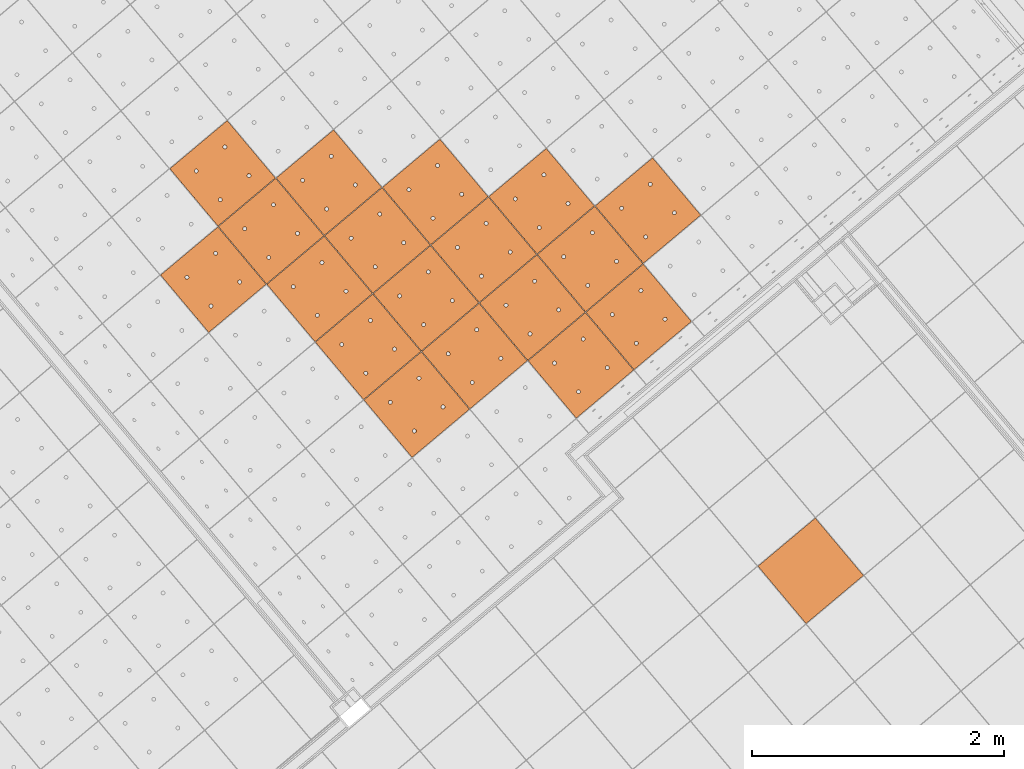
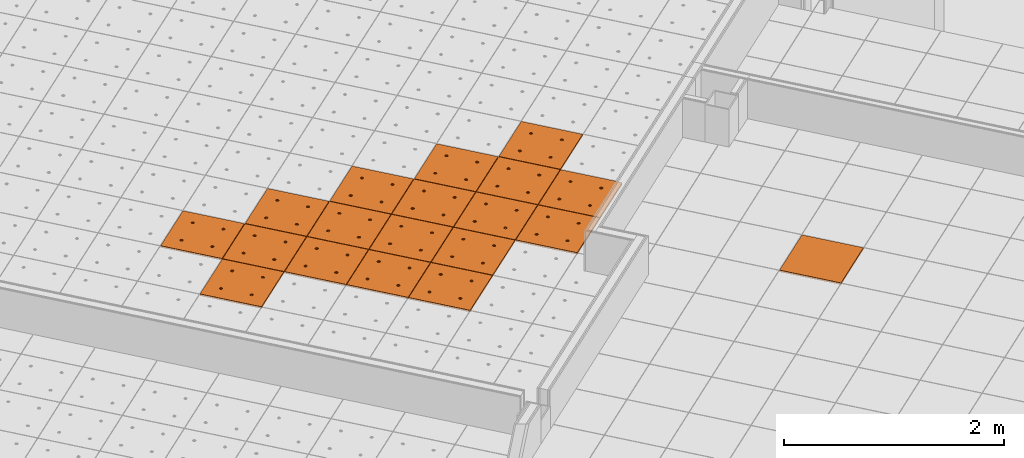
# One storey, part 167 of 338: 19 proxies, 2 elements without a shape of their own.
"""IFC2X3 building model written with IfcOpenShell, lengths in millimetres."""

from ifc_helpers import new_model, entity, si_unit, converted_unit, derived_unit, money_unit, direction, frame, origin_with_axes, place, context, subcontext, project, spatial, faceted_brep, source, transform, mapped, material, type_object, type_shapes, element, aggregate, save


model = new_model("IFC2X3")

# Units and contexts
model_context = context("Model", 3, precision=0.01, world=origin_with_axes(), true_north=direction((0.0, 1.0)))
plan_context = context("Plan", 3, precision=0.01, world=origin_with_axes(), true_north=direction((0.0, 1.0)))
body_context = subcontext(model_context, "Body", "Model", "MODEL_VIEW")
ifc_project = project(units=[si_unit("LENGTHUNIT", "METRE", prefix="MILLI"), si_unit("AREAUNIT", "SQUARE_METRE"), si_unit("VOLUMEUNIT", "CUBIC_METRE"), converted_unit("PLANEANGLEUNIT", "DEGREE", entity("IfcPlaneAngleMeasure", 0.0174532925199), si_unit("PLANEANGLEUNIT", "RADIAN"), dimensions=[0, 0, 0, 0, 0, 0, 0]), money_unit("EUR"), converted_unit("TIMEUNIT", "Year", entity("IfcTimeMeasure", 31556926.0), si_unit("TIMEUNIT", "SECOND"), dimensions=[0, 0, 1, 0, 0, 0, 0]), si_unit("MASSUNIT", "GRAM", prefix="KILO"), si_unit("THERMODYNAMICTEMPERATUREUNIT", "DEGREE_CELSIUS"), si_unit("LUMINOUSINTENSITYUNIT", "LUMEN"), si_unit("ENERGYUNIT", "JOULE", prefix="MEGA"), derived_unit("THERMALCONDUCTANCEUNIT", [(si_unit("POWERUNIT", "WATT"), 1), (si_unit("LENGTHUNIT", "METRE"), -1), (si_unit("THERMODYNAMICTEMPERATUREUNIT", "KELVIN"), -1)]), derived_unit("SPECIFICHEATCAPACITYUNIT", [(si_unit("ENERGYUNIT", "JOULE"), 1), (si_unit("MASSUNIT", "GRAM", prefix="KILO"), -1), (si_unit("THERMODYNAMICTEMPERATUREUNIT", "KELVIN"), -1)]), derived_unit("MASSDENSITYUNIT", [(si_unit("MASSUNIT", "GRAM", prefix="KILO"), 1), (si_unit("VOLUMEUNIT", "CUBIC_METRE"), -1)])], contexts=[model_context, plan_context])

# Site, building, storey
site_placement = place(None, origin_with_axes())
site = spatial("IfcSite", under=ifc_project, at=site_placement, Name="Fortuinstraat Woensdrecht", CompositionType="ELEMENT")
building_placement = place(site_placement, origin_with_axes())
building = spatial("IfcBuilding", under=site, at=building_placement, Name="IKC Fortuna", CompositionType="ELEMENT")
storey_placement = place(building_placement, origin_with_axes())
storey = spatial("IfcBuildingStorey", under=building, at=storey_placement, Name="00 begane grond", CompositionType="ELEMENT", Elevation=0.0)

# Covering, proxy
covering_type = type_object("IfcCoveringType", Name="Curtain Wall Type", PredefinedType="CEILING")
covering_1_placement = place(storey_placement, frame((17937.1227498, -4186.27868692, 4660.0), z_axis=(0.0, 0.0, 1.0), x_axis=(1.0, 0.0, 0.0)))
covering_1 = element("IfcCovering", 1, at=covering_1_placement, inside=storey, type_object=covering_type, Name="45_Plafondafwerking_P02", PredefinedType="CEILING")
ifc_material = material(Name="Gipsplaat")
building_element_proxy_type_1 = type_object("IfcBuildingElementProxyType", Name="Distinct Panel 600 x 600 x 20", PredefinedType="NOTDEFINED")
shared_shape_1 = source(origin_with_axes(), body_context, "Body", "Brep", [
    faceted_brep([(2.49999999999, 2.5, -10.0), (597.5, 2.49999999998, -10.0), (597.5, 2.49999999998, 10.0), (2.49999999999, 2.5, 10.0), (2.50000000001, 597.5, -10.0), (597.5, 597.5, -10.0), (597.5, 597.5, 10.0), (2.50000000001, 597.5, 10.0)], [[[0, 1, 2, 3]], [[0, 4, 5, 1]], [[1, 5, 6, 2]], [[3, 2, 6, 7]], [[4, 0, 3, 7]], [[5, 4, 7, 6]]]),
])
type_shapes(building_element_proxy_type_1, [shared_shape_1])
proxy_1_placement = place(covering_1_placement, frame((-3766.64921443, 4488.91541909, 0.0), z_axis=(0.0, 0.0, 1.0), x_axis=(1.0, 0.0, 0.0)))
proxy_1 = element("IfcBuildingElementProxy", 2, at=proxy_1_placement, type_object=building_element_proxy_type_1, material=ifc_material, Name="__Panel-D", context=body_context, shape_type="MappedRepresentation", body=[
    mapped(shared_shape_1, transform((36.9769427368, 422.649625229, 0.0), x_axis=(-0.766044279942, -0.642787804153, 0.0), y_axis=(0.642787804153, -0.766044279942, 0.0), z_axis=(0.0, 0.0, 1.0))),
])
aggregate(covering_1, [proxy_1])

# Covering, proxies
covering_2_placement = place(storey_placement, frame((15863.124366, 4456.31398675, 4619.99995334), z_axis=(0.0, 0.0, 1.0), x_axis=(1.0, 0.0, 0.0)))
covering_2 = element("IfcCovering", 3, at=covering_2_placement, inside=storey, type_object=covering_type, Name="45_Plafondafwerking_P01", PredefinedType="CEILING")
building_element_proxy_type_2 = type_object("IfcBuildingElementProxyType", Name="Main Panel 600 x 600 x 20", PredefinedType="NOTDEFINED")
shared_shape_2 = source(origin_with_axes(), body_context, "Body", "Brep", [
    faceted_brep([(2.50000262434, 2.50000269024, -10.0), (299.999999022, 2.50000269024, -10.0), (299.999999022, 2.50000269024, 10.0), (2.50000262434, 2.50000269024, 10.0), (2.50000262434, 300.000003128, -10.0), (2.50000262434, 597.500003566, -10.0), (299.999999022, 597.500003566, -10.0), (597.499995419, 597.500003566, -10.0), (597.499995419, 300.000003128, -10.0), (597.499995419, 2.50000269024, -10.0), (166.250000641, 450.062333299, -10.0), (165.794233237, 452.647118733, -10.0), (164.896546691, 455.113492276, -10.0), (163.584216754, 457.386514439, -10.0), (161.897117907, 459.397120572, -10.0), (159.886511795, 461.084219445, -10.0), (157.613489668, 462.396549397, -10.0), (155.147116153, 463.294235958, -10.0), (152.56233076, 463.750003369, -10.0), (149.937670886, 463.750003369, -10.0), (147.352885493, 463.294235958, -10.0), (144.886511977, 462.396549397, -10.0), (142.61348985, 461.084219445, -10.0), (140.602883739, 459.397120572, -10.0), (138.915784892, 457.386514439, -10.0), (137.603454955, 455.113492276, -10.0), (136.705768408, 452.647118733, -10.0), (136.250001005, 450.062333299, -10.0), (136.250001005, 448.750003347, -10.0), (136.250001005, 447.437673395, -10.0), (136.705768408, 444.852887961, -10.0), (137.603454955, 442.386514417, -10.0), (138.915784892, 440.113492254, -10.0), (140.602883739, 438.102886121, -10.0), (142.61348985, 436.415787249, -10.0), (144.886511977, 435.103457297, -10.0), (147.352885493, 434.205770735, -10.0), (149.937670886, 433.750003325, -10.0), (152.56233076, 433.750003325, -10.0), (155.147116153, 434.205770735, -10.0), (157.613489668, 435.103457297, -10.0), (159.886511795, 436.415787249, -10.0), (161.897117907, 438.102886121, -10.0), (163.584216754, 440.113492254, -10.0), (164.896546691, 442.386514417, -10.0), (165.794233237, 444.852887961, -10.0), (166.250000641, 447.437673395, -10.0), (463.749997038, 450.062333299, -10.0), (463.294229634, 452.647118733, -10.0), (462.396543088, 455.113492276, -10.0), (461.084213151, 457.386514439, -10.0), (459.397114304, 459.397120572, -10.0), (457.386508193, 461.084219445, -10.0), (455.113486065, 462.396549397, -10.0), (452.64711255, 463.294235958, -10.0), (450.062327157, 463.750003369, -10.0), (447.437667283, 463.750003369, -10.0), (444.85288189, 463.294235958, -10.0), (442.386508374, 462.396549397, -10.0), (440.113486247, 461.084219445, -10.0), (438.102880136, 459.397120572, -10.0), (436.415781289, 457.386514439, -10.0), (435.103451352, 455.113492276, -10.0), (434.205764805, 452.647118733, -10.0), (433.749997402, 450.062333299, -10.0), (433.749997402, 448.750003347, -10.0), (433.749997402, 447.437673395, -10.0), (434.205764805, 444.852887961, -10.0), (435.103451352, 442.386514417, -10.0), (436.415781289, 440.113492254, -10.0), (438.102880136, 438.102886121, -10.0), (440.113486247, 436.415787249, -10.0), (442.386508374, 435.103457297, -10.0), (444.85288189, 434.205770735, -10.0), (447.437667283, 433.750003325, -10.0), (450.062327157, 433.750003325, -10.0), (452.64711255, 434.205770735, -10.0), (455.113486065, 435.103457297, -10.0), (457.386508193, 436.415787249, -10.0), (459.397114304, 438.102886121, -10.0), (461.084213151, 440.113492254, -10.0), (462.396543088, 442.386514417, -10.0), (463.294229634, 444.852887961, -10.0), (463.749997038, 447.437673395, -10.0), (463.749997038, 152.562332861, -10.0), (463.294229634, 155.147118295, -10.0), (462.396543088, 157.613491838, -10.0), (461.084213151, 159.886514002, -10.0), (459.397114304, 161.897120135, -10.0), (457.386508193, 163.584219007, -10.0), (455.113486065, 164.896548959, -10.0), (452.64711255, 165.79423552, -10.0), (450.062327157, 166.250002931, -10.0), (447.437667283, 166.250002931, -10.0), (444.85288189, 165.79423552, -10.0), (442.386508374, 164.896548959, -10.0), (440.113486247, 163.584219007, -10.0), (438.102880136, 161.897120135, -10.0), (436.415781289, 159.886514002, -10.0), (435.103451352, 157.613491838, -10.0), (434.205764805, 155.147118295, -10.0), (433.749997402, 152.562332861, -10.0), (433.749997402, 151.250002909, -10.0), (433.749997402, 149.937672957, -10.0), (434.205764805, 147.352887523, -10.0), (435.103451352, 144.88651398, -10.0), (436.415781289, 142.613491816, -10.0), (438.102880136, 140.602885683, -10.0), (440.113486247, 138.915786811, -10.0), (442.386508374, 137.603456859, -10.0), (444.85288189, 136.705770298, -10.0), (447.437667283, 136.250002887, -10.0), (450.062327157, 136.250002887, -10.0), (452.64711255, 136.705770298, -10.0), (455.113486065, 137.603456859, -10.0), (457.386508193, 138.915786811, -10.0), (459.397114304, 140.602885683, -10.0), (461.084213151, 142.613491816, -10.0), (462.396543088, 144.88651398, -10.0), (463.294229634, 147.352887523, -10.0), (463.749997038, 149.937672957, -10.0), (166.250000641, 152.562332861, -10.0), (165.794233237, 155.147118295, -10.0), (164.896546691, 157.613491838, -10.0), (163.584216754, 159.886514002, -10.0), (161.897117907, 161.897120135, -10.0), (159.886511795, 163.584219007, -10.0), (157.613489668, 164.896548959, -10.0), (155.147116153, 165.79423552, -10.0), (152.56233076, 166.250002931, -10.0), (149.937670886, 166.250002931, -10.0), (147.352885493, 165.79423552, -10.0), (144.886511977, 164.896548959, -10.0), (142.61348985, 163.584219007, -10.0), (140.602883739, 161.897120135, -10.0), (138.915784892, 159.886514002, -10.0), (137.603454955, 157.613491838, -10.0), (136.705768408, 155.147118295, -10.0), (136.250001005, 152.562332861, -10.0), (136.250001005, 151.250002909, -10.0), (136.250001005, 149.937672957, -10.0), (136.705768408, 147.352887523, -10.0), (137.603454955, 144.88651398, -10.0), (138.915784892, 142.613491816, -10.0), (140.602883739, 140.602885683, -10.0), (142.61348985, 138.915786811, -10.0), (144.886511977, 137.603456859, -10.0), (147.352885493, 136.705770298, -10.0), (149.937670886, 136.250002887, -10.0), (152.56233076, 136.250002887, -10.0), (155.147116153, 136.705770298, -10.0), (157.613489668, 137.603456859, -10.0), (159.886511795, 138.915786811, -10.0), (161.897117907, 140.602885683, -10.0), (163.584216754, 142.613491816, -10.0), (164.896546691, 144.88651398, -10.0), (165.794233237, 147.352887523, -10.0), (166.250000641, 149.937672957, -10.0), (597.499995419, 2.50000269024, 10.0), (597.499995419, 300.000003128, 10.0), (597.499995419, 597.500003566, 10.0), (299.999999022, 597.500003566, 10.0), (2.50000262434, 597.500003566, 10.0), (2.50000262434, 300.000003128, 10.0), (166.250000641, 450.062333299, 10.0), (166.250000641, 447.437673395, 10.0), (165.794233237, 444.852887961, 10.0), (164.896546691, 442.386514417, 10.0), (163.584216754, 440.113492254, 10.0), (161.897117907, 438.102886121, 10.0), (159.886511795, 436.415787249, 10.0), (157.613489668, 435.103457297, 10.0), (155.147116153, 434.205770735, 10.0), (152.56233076, 433.750003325, 10.0), (149.937670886, 433.750003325, 10.0), (147.352885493, 434.205770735, 10.0), (144.886511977, 435.103457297, 10.0), (142.61348985, 436.415787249, 10.0), (140.602883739, 438.102886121, 10.0), (138.915784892, 440.113492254, 10.0), (137.603454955, 442.386514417, 10.0), (136.705768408, 444.852887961, 10.0), (136.250001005, 447.437673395, 10.0), (136.250001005, 448.750003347, 10.0), (136.250001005, 450.062333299, 10.0), (136.705768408, 452.647118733, 10.0), (137.603454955, 455.113492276, 10.0), (138.915784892, 457.386514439, 10.0), (140.602883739, 459.397120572, 10.0), (142.61348985, 461.084219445, 10.0), (144.886511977, 462.396549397, 10.0), (147.352885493, 463.294235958, 10.0), (149.937670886, 463.750003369, 10.0), (152.56233076, 463.750003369, 10.0), (155.147116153, 463.294235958, 10.0), (157.613489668, 462.396549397, 10.0), (159.886511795, 461.084219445, 10.0), (161.897117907, 459.397120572, 10.0), (163.584216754, 457.386514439, 10.0), (164.896546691, 455.113492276, 10.0), (165.794233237, 452.647118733, 10.0), (463.749997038, 450.062333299, 10.0), (463.749997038, 447.437673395, 10.0), (463.294229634, 444.852887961, 10.0), (462.396543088, 442.386514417, 10.0), (461.084213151, 440.113492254, 10.0), (459.397114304, 438.102886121, 10.0), (457.386508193, 436.415787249, 10.0), (455.113486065, 435.103457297, 10.0), (452.64711255, 434.205770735, 10.0), (450.062327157, 433.750003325, 10.0), (447.437667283, 433.750003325, 10.0), (444.85288189, 434.205770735, 10.0), (442.386508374, 435.103457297, 10.0), (440.113486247, 436.415787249, 10.0), (438.102880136, 438.102886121, 10.0), (436.415781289, 440.113492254, 10.0), (435.103451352, 442.386514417, 10.0), (434.205764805, 444.852887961, 10.0), (433.749997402, 447.437673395, 10.0), (433.749997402, 448.750003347, 10.0), (433.749997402, 450.062333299, 10.0), (434.205764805, 452.647118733, 10.0), (435.103451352, 455.113492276, 10.0), (436.415781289, 457.386514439, 10.0), (438.102880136, 459.397120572, 10.0), (440.113486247, 461.084219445, 10.0), (442.386508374, 462.396549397, 10.0), (444.85288189, 463.294235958, 10.0), (447.437667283, 463.750003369, 10.0), (450.062327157, 463.750003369, 10.0), (452.64711255, 463.294235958, 10.0), (455.113486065, 462.396549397, 10.0), (457.386508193, 461.084219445, 10.0), (459.397114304, 459.397120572, 10.0), (461.084213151, 457.386514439, 10.0), (462.396543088, 455.113492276, 10.0), (463.294229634, 452.647118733, 10.0), (463.749997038, 152.562332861, 10.0), (463.749997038, 149.937672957, 10.0), (463.294229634, 147.352887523, 10.0), (462.396543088, 144.88651398, 10.0), (461.084213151, 142.613491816, 10.0), (459.397114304, 140.602885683, 10.0), (457.386508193, 138.915786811, 10.0), (455.113486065, 137.603456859, 10.0), (452.64711255, 136.705770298, 10.0), (450.062327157, 136.250002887, 10.0), (447.437667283, 136.250002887, 10.0), (444.85288189, 136.705770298, 10.0), (442.386508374, 137.603456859, 10.0), (440.113486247, 138.915786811, 10.0), (438.102880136, 140.602885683, 10.0), (436.415781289, 142.613491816, 10.0), (435.103451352, 144.88651398, 10.0), (434.205764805, 147.352887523, 10.0), (433.749997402, 149.937672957, 10.0), (433.749997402, 151.250002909, 10.0), (433.749997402, 152.562332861, 10.0), (434.205764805, 155.147118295, 10.0), (435.103451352, 157.613491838, 10.0), (436.415781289, 159.886514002, 10.0), (438.102880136, 161.897120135, 10.0), (440.113486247, 163.584219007, 10.0), (442.386508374, 164.896548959, 10.0), (444.85288189, 165.79423552, 10.0), (447.437667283, 166.250002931, 10.0), (450.062327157, 166.250002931, 10.0), (452.64711255, 165.79423552, 10.0), (455.113486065, 164.896548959, 10.0), (457.386508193, 163.584219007, 10.0), (459.397114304, 161.897120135, 10.0), (461.084213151, 159.886514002, 10.0), (462.396543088, 157.613491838, 10.0), (463.294229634, 155.147118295, 10.0), (166.250000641, 152.562332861, 10.0), (166.250000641, 149.937672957, 10.0), (165.794233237, 147.352887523, 10.0), (164.896546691, 144.88651398, 10.0), (163.584216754, 142.613491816, 10.0), (161.897117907, 140.602885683, 10.0), (159.886511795, 138.915786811, 10.0), (157.613489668, 137.603456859, 10.0), (155.147116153, 136.705770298, 10.0), (152.56233076, 136.250002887, 10.0), (149.937670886, 136.250002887, 10.0), (147.352885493, 136.705770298, 10.0), (144.886511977, 137.603456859, 10.0), (142.61348985, 138.915786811, 10.0), (140.602883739, 140.602885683, 10.0), (138.915784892, 142.613491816, 10.0), (137.603454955, 144.88651398, 10.0), (136.705768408, 147.352887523, 10.0), (136.250001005, 149.937672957, 10.0), (136.250001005, 151.250002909, 10.0), (136.250001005, 152.562332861, 10.0), (136.705768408, 155.147118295, 10.0), (137.603454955, 157.613491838, 10.0), (138.915784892, 159.886514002, 10.0), (140.602883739, 161.897120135, 10.0), (142.61348985, 163.584219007, 10.0), (144.886511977, 164.896548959, 10.0), (147.352885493, 165.79423552, 10.0), (149.937670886, 166.250002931, 10.0), (152.56233076, 166.250002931, 10.0), (155.147116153, 165.79423552, 10.0), (157.613489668, 164.896548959, 10.0), (159.886511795, 163.584219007, 10.0), (161.897117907, 161.897120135, 10.0), (163.584216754, 159.886514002, 10.0), (164.896546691, 157.613491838, 10.0), (165.794233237, 155.147118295, 10.0)], [[[0, 1, 2, 3]], [[0, 4, 5, 6, 7, 8, 9, 1], [10, 11, 12, 13, 14, 15, 16, 17, 18, 19, 20, 21, 22, 23, 24, 25, 26, 27, 28, 29, 30, 31, 32, 33, 34, 35, 36, 37, 38, 39, 40, 41, 42, 43, 44, 45, 46], [47, 48, 49, 50, 51, 52, 53, 54, 55, 56, 57, 58, 59, 60, 61, 62, 63, 64, 65, 66, 67, 68, 69, 70, 71, 72, 73, 74, 75, 76, 77, 78, 79, 80, 81, 82, 83], [84, 85, 86, 87, 88, 89, 90, 91, 92, 93, 94, 95, 96, 97, 98, 99, 100, 101, 102, 103, 104, 105, 106, 107, 108, 109, 110, 111, 112, 113, 114, 115, 116, 117, 118, 119, 120], [121, 122, 123, 124, 125, 126, 127, 128, 129, 130, 131, 132, 133, 134, 135, 136, 137, 138, 139, 140, 141, 142, 143, 144, 145, 146, 147, 148, 149, 150, 151, 152, 153, 154, 155, 156, 157]], [[1, 9, 158, 2]], [[3, 2, 158, 159, 160, 161, 162, 163], [164, 165, 166, 167, 168, 169, 170, 171, 172, 173, 174, 175, 176, 177, 178, 179, 180, 181, 182, 183, 184, 185, 186, 187, 188, 189, 190, 191, 192, 193, 194, 195, 196, 197, 198, 199, 200], [201, 202, 203, 204, 205, 206, 207, 208, 209, 210, 211, 212, 213, 214, 215, 216, 217, 218, 219, 220, 221, 222, 223, 224, 225, 226, 227, 228, 229, 230, 231, 232, 233, 234, 235, 236, 237], [238, 239, 240, 241, 242, 243, 244, 245, 246, 247, 248, 249, 250, 251, 252, 253, 254, 255, 256, 257, 258, 259, 260, 261, 262, 263, 264, 265, 266, 267, 268, 269, 270, 271, 272, 273, 274], [275, 276, 277, 278, 279, 280, 281, 282, 283, 284, 285, 286, 287, 288, 289, 290, 291, 292, 293, 294, 295, 296, 297, 298, 299, 300, 301, 302, 303, 304, 305, 306, 307, 308, 309, 310, 311]], [[4, 0, 3, 163]], [[5, 4, 163, 162]], [[6, 5, 162, 161]], [[7, 6, 161, 160]], [[8, 7, 160, 159]], [[9, 8, 159, 158]], [[11, 10, 164, 200]], [[12, 11, 200, 199]], [[13, 12, 199, 198]], [[14, 13, 198, 197]], [[15, 14, 197, 196]], [[16, 15, 196, 195]], [[17, 16, 195, 194]], [[18, 17, 194, 193]], [[19, 18, 193, 192]], [[20, 19, 192, 191]], [[21, 20, 191, 190]], [[22, 21, 190, 189]], [[23, 22, 189, 188]], [[24, 23, 188, 187]], [[25, 24, 187, 186]], [[26, 25, 186, 185]], [[27, 26, 185, 184]], [[28, 27, 184, 183]], [[29, 28, 183, 182]], [[30, 29, 182, 181]], [[31, 30, 181, 180]], [[32, 31, 180, 179]], [[33, 32, 179, 178]], [[34, 33, 178, 177]], [[35, 34, 177, 176]], [[36, 35, 176, 175]], [[37, 36, 175, 174]], [[38, 37, 174, 173]], [[39, 38, 173, 172]], [[40, 39, 172, 171]], [[41, 40, 171, 170]], [[42, 41, 170, 169]], [[43, 42, 169, 168]], [[44, 43, 168, 167]], [[45, 44, 167, 166]], [[46, 45, 166, 165]], [[10, 46, 165, 164]], [[48, 47, 201, 237]], [[49, 48, 237, 236]], [[50, 49, 236, 235]], [[51, 50, 235, 234]], [[52, 51, 234, 233]], [[53, 52, 233, 232]], [[54, 53, 232, 231]], [[55, 54, 231, 230]], [[56, 55, 230, 229]], [[57, 56, 229, 228]], [[58, 57, 228, 227]], [[59, 58, 227, 226]], [[60, 59, 226, 225]], [[61, 60, 225, 224]], [[62, 61, 224, 223]], [[63, 62, 223, 222]], [[64, 63, 222, 221]], [[65, 64, 221, 220]], [[66, 65, 220, 219]], [[67, 66, 219, 218]], [[68, 67, 218, 217]], [[69, 68, 217, 216]], [[70, 69, 216, 215]], [[71, 70, 215, 214]], [[72, 71, 214, 213]], [[73, 72, 213, 212]], [[74, 73, 212, 211]], [[75, 74, 211, 210]], [[76, 75, 210, 209]], [[77, 76, 209, 208]], [[78, 77, 208, 207]], [[79, 78, 207, 206]], [[80, 79, 206, 205]], [[81, 80, 205, 204]], [[82, 81, 204, 203]], [[83, 82, 203, 202]], [[47, 83, 202, 201]], [[85, 84, 238, 274]], [[86, 85, 274, 273]], [[87, 86, 273, 272]], [[88, 87, 272, 271]], [[89, 88, 271, 270]], [[90, 89, 270, 269]], [[91, 90, 269, 268]], [[92, 91, 268, 267]], [[93, 92, 267, 266]], [[94, 93, 266, 265]], [[95, 94, 265, 264]], [[96, 95, 264, 263]], [[97, 96, 263, 262]], [[98, 97, 262, 261]], [[99, 98, 261, 260]], [[100, 99, 260, 259]], [[101, 100, 259, 258]], [[102, 101, 258, 257]], [[103, 102, 257, 256]], [[104, 103, 256, 255]], [[105, 104, 255, 254]], [[106, 105, 254, 253]], [[107, 106, 253, 252]], [[108, 107, 252, 251]], [[109, 108, 251, 250]], [[110, 109, 250, 249]], [[111, 110, 249, 248]], [[112, 111, 248, 247]], [[113, 112, 247, 246]], [[114, 113, 246, 245]], [[115, 114, 245, 244]], [[116, 115, 244, 243]], [[117, 116, 243, 242]], [[118, 117, 242, 241]], [[119, 118, 241, 240]], [[120, 119, 240, 239]], [[84, 120, 239, 238]], [[122, 121, 275, 311]], [[123, 122, 311, 310]], [[124, 123, 310, 309]], [[125, 124, 309, 308]], [[126, 125, 308, 307]], [[127, 126, 307, 306]], [[128, 127, 306, 305]], [[129, 128, 305, 304]], [[130, 129, 304, 303]], [[131, 130, 303, 302]], [[132, 131, 302, 301]], [[133, 132, 301, 300]], [[134, 133, 300, 299]], [[135, 134, 299, 298]], [[136, 135, 298, 297]], [[137, 136, 297, 296]], [[138, 137, 296, 295]], [[139, 138, 295, 294]], [[140, 139, 294, 293]], [[141, 140, 293, 292]], [[142, 141, 292, 291]], [[143, 142, 291, 290]], [[144, 143, 290, 289]], [[145, 144, 289, 288]], [[146, 145, 288, 287]], [[147, 146, 287, 286]], [[148, 147, 286, 285]], [[149, 148, 285, 284]], [[150, 149, 284, 283]], [[151, 150, 283, 282]], [[152, 151, 282, 281]], [[153, 152, 281, 280]], [[154, 153, 280, 279]], [[155, 154, 279, 278]], [[156, 155, 278, 277]], [[157, 156, 277, 276]], [[121, 157, 276, 275]]]),
])
type_shapes(building_element_proxy_type_2, [shared_shape_2])
proxy_2_placement = place(covering_2_placement, frame((-6367.28911813, -994.094617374, 29.7317792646), z_axis=(0.0, 0.0, 1.0), x_axis=(0.642787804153, -0.766044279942, 0.0)))
proxy_2 = element("IfcBuildingElementProxy", 4, at=proxy_2_placement, type_object=building_element_proxy_type_2, material=ifc_material, Name="__600x005 Rockfon Krios", context=body_context, shape_type="MappedRepresentation", body=[
    mapped(shared_shape_2, transform((-300.0, 299.995617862, -1.62150043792), x_axis=(0.0, -0.999985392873, 0.00540500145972), y_axis=(1.0, 0.0, 0.0), z_axis=(0.0, 0.00540500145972, 0.999985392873))),
])
proxy_3_placement = place(covering_2_placement, frame((-5521.9965815, -1068.05413642, 26.4887783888), z_axis=(0.0, 0.0, 1.0), x_axis=(0.642787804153, -0.766044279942, 0.0)))
proxy_3 = element("IfcBuildingElementProxy", 5, at=proxy_3_placement, type_object=building_element_proxy_type_2, material=ifc_material, Name="__600x017 Rockfon Krios", context=body_context, shape_type="MappedRepresentation", body=[
    mapped(shared_shape_2, transform((-300.0, 299.995617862, -1.62150043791), x_axis=(0.0, -0.999985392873, 0.00540500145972), y_axis=(1.0, 0.0, 0.0), z_axis=(0.0, 0.00540500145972, 0.999985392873))),
])
proxy_4_placement = place(covering_2_placement, frame((-5981.61643564, -1453.72118534, 29.7317792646), z_axis=(0.0, 0.0, 1.0), x_axis=(0.642787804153, -0.766044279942, 0.0)))
proxy_4 = element("IfcBuildingElementProxy", 6, at=proxy_4_placement, type_object=building_element_proxy_type_2, material=ifc_material, Name="__600x018 Rockfon Krios", context=body_context, shape_type="MappedRepresentation", body=[
    mapped(shared_shape_2, transform((-300.0, 299.995617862, -1.62150043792), x_axis=(0.0, -0.999985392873, 0.00540500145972), y_axis=(1.0, 0.0, 0.0), z_axis=(0.0, 0.00540500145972, 0.999985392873))),
])
proxy_5_placement = place(covering_2_placement, frame((-6441.23628978, -1839.38823426, 32.9747801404), z_axis=(0.0, 0.0, 1.0), x_axis=(0.642787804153, -0.766044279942, 0.0)))
proxy_5 = element("IfcBuildingElementProxy", 7, at=proxy_5_placement, type_object=building_element_proxy_type_2, material=ifc_material, Name="__600x019 Rockfon Krios", context=body_context, shape_type="MappedRepresentation", body=[
    mapped(shared_shape_2, transform((-300.0, 299.995617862, -1.62150043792), x_axis=(0.0, -0.999985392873, 0.00540500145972), y_axis=(1.0, 0.0, 0.0), z_axis=(0.0, 0.00540500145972, 0.999985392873))),
])
proxy_6_placement = place(covering_2_placement, frame((-4676.70404487, -1142.01365546, 23.2457775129), z_axis=(0.0, 0.0, 1.0), x_axis=(0.642787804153, -0.766044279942, 0.0)))
proxy_6 = element("IfcBuildingElementProxy", 8, at=proxy_6_placement, type_object=building_element_proxy_type_2, material=ifc_material, Name="__600x029 Rockfon Krios", context=body_context, shape_type="MappedRepresentation", body=[
    mapped(shared_shape_2, transform((-300.0, 299.995617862, -1.62150043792), x_axis=(0.0, -0.999985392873, 0.00540500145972), y_axis=(1.0, 0.0, 0.0), z_axis=(0.0, 0.00540500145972, 0.999985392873))),
])
proxy_7_placement = place(covering_2_placement, frame((-5136.32389901, -1527.68070438, 26.4887783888), z_axis=(0.0, 0.0, 1.0), x_axis=(0.642787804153, -0.766044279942, 0.0)))
proxy_7 = element("IfcBuildingElementProxy", 9, at=proxy_7_placement, type_object=building_element_proxy_type_2, material=ifc_material, Name="__600x030 Rockfon Krios", context=body_context, shape_type="MappedRepresentation", body=[
    mapped(shared_shape_2, transform((-300.0, 299.995617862, -1.62150043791), x_axis=(0.0, -0.999985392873, 0.00540500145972), y_axis=(1.0, 0.0, 0.0), z_axis=(0.0, 0.00540500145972, 0.999985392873))),
])
proxy_8_placement = place(covering_2_placement, frame((-5595.94375315, -1913.3477533, 29.7317792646), z_axis=(0.0, 0.0, 1.0), x_axis=(0.642787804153, -0.766044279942, 0.0)))
proxy_8 = element("IfcBuildingElementProxy", 10, at=proxy_8_placement, type_object=building_element_proxy_type_2, material=ifc_material, Name="__600x031 Rockfon Krios", context=body_context, shape_type="MappedRepresentation", body=[
    mapped(shared_shape_2, transform((-300.0, 299.995617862, -1.62150043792), x_axis=(0.0, -0.999985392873, 0.00540500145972), y_axis=(1.0, 0.0, 0.0), z_axis=(0.0, 0.00540500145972, 0.999985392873))),
])
proxy_9_placement = place(covering_2_placement, frame((-3831.41150823, -1215.9731745, 20.0027766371), z_axis=(0.0, 0.0, 1.0), x_axis=(0.642787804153, -0.766044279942, 0.0)))
proxy_9 = element("IfcBuildingElementProxy", 11, at=proxy_9_placement, type_object=building_element_proxy_type_2, material=ifc_material, Name="__600x041 Rockfon Krios", context=body_context, shape_type="MappedRepresentation", body=[
    mapped(shared_shape_2, transform((-300.0, 299.995617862, -1.62150043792), x_axis=(0.0, -0.999985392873, 0.00540500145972), y_axis=(1.0, 0.0, 0.0), z_axis=(0.0, 0.00540500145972, 0.999985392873))),
])
proxy_10_placement = place(covering_2_placement, frame((-4291.03136238, -1601.64022343, 23.2457775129), z_axis=(0.0, 0.0, 1.0), x_axis=(0.642787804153, -0.766044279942, 0.0)))
proxy_10 = element("IfcBuildingElementProxy", 12, at=proxy_10_placement, type_object=building_element_proxy_type_2, material=ifc_material, Name="__600x042 Rockfon Krios", context=body_context, shape_type="MappedRepresentation", body=[
    mapped(shared_shape_2, transform((-300.0, 299.995617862, -1.62150043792), x_axis=(0.0, -0.999985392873, 0.00540500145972), y_axis=(1.0, 0.0, 0.0), z_axis=(0.0, 0.00540500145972, 0.999985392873))),
])
proxy_11_placement = place(covering_2_placement, frame((-4750.65121652, -1987.30727235, 26.4887783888), z_axis=(0.0, 0.0, 1.0), x_axis=(0.642787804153, -0.766044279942, 0.0)))
proxy_11 = element("IfcBuildingElementProxy", 13, at=proxy_11_placement, type_object=building_element_proxy_type_2, material=ifc_material, Name="__600x043 Rockfon Krios", context=body_context, shape_type="MappedRepresentation", body=[
    mapped(shared_shape_2, transform((-300.0, 299.995617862, -1.62150043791), x_axis=(0.0, -0.999985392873, 0.00540500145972), y_axis=(1.0, 0.0, 0.0), z_axis=(0.0, 0.00540500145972, 0.999985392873))),
])
proxy_12_placement = place(covering_2_placement, frame((-5210.27107066, -2372.97432127, 29.7317792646), z_axis=(0.0, 0.0, 1.0), x_axis=(0.642787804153, -0.766044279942, 0.0)))
proxy_12 = element("IfcBuildingElementProxy", 14, at=proxy_12_placement, type_object=building_element_proxy_type_2, material=ifc_material, Name="__600x044 Rockfon Krios", context=body_context, shape_type="MappedRepresentation", body=[
    mapped(shared_shape_2, transform((-300.0, 299.995617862, -1.62150043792), x_axis=(0.0, -0.999985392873, 0.00540500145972), y_axis=(1.0, 0.0, 0.0), z_axis=(0.0, 0.00540500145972, 0.999985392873))),
])
proxy_13_placement = place(covering_2_placement, frame((-2986.1189716, -1289.93269355, 16.7597757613), z_axis=(0.0, 0.0, 1.0), x_axis=(0.642787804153, -0.766044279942, 0.0)))
proxy_13 = element("IfcBuildingElementProxy", 15, at=proxy_13_placement, type_object=building_element_proxy_type_2, material=ifc_material, Name="__600x053 Rockfon Krios", context=body_context, shape_type="MappedRepresentation", body=[
    mapped(shared_shape_2, transform((-300.0, 299.995617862, -1.62150043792), x_axis=(0.0, -0.999985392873, 0.00540500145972), y_axis=(1.0, 0.0, 0.0), z_axis=(0.0, 0.00540500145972, 0.999985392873))),
])
proxy_14_placement = place(covering_2_placement, frame((-3445.73882574, -1675.59974247, 20.0027766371), z_axis=(0.0, 0.0, 1.0), x_axis=(0.642787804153, -0.766044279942, 0.0)))
proxy_14 = element("IfcBuildingElementProxy", 16, at=proxy_14_placement, type_object=building_element_proxy_type_2, material=ifc_material, Name="__600x054 Rockfon Krios", context=body_context, shape_type="MappedRepresentation", body=[
    mapped(shared_shape_2, transform((-300.0, 299.995617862, -1.62150043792), x_axis=(0.0, -0.999985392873, 0.00540500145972), y_axis=(1.0, 0.0, 0.0), z_axis=(0.0, 0.00540500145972, 0.999985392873))),
])
proxy_15_placement = place(covering_2_placement, frame((-3905.35867988, -2061.26679139, 23.2457775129), z_axis=(0.0, 0.0, 1.0), x_axis=(0.642787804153, -0.766044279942, 0.0)))
proxy_15 = element("IfcBuildingElementProxy", 17, at=proxy_15_placement, type_object=building_element_proxy_type_2, material=ifc_material, Name="__600x055 Rockfon Krios", context=body_context, shape_type="MappedRepresentation", body=[
    mapped(shared_shape_2, transform((-300.0, 299.995617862, -1.62150043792), x_axis=(0.0, -0.999985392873, 0.00540500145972), y_axis=(1.0, 0.0, 0.0), z_axis=(0.0, 0.00540500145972, 0.999985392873))),
])
proxy_16_placement = place(covering_2_placement, frame((-4364.97853403, -2446.93384031, 26.4887783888), z_axis=(0.0, 0.0, 1.0), x_axis=(0.642787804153, -0.766044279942, 0.0)))
proxy_16 = element("IfcBuildingElementProxy", 18, at=proxy_16_placement, type_object=building_element_proxy_type_2, material=ifc_material, Name="__600x056 Rockfon Krios", context=body_context, shape_type="MappedRepresentation", body=[
    mapped(shared_shape_2, transform((-300.0, 299.995617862, -1.62150043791), x_axis=(0.0, -0.999985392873, 0.00540500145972), y_axis=(1.0, 0.0, 0.0), z_axis=(0.0, 0.00540500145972, 0.999985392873))),
])
proxy_17_placement = place(covering_2_placement, frame((-4824.59838817, -2832.60088924, 29.7317792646), z_axis=(0.0, 0.0, 1.0), x_axis=(0.642787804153, -0.766044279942, 0.0)))
proxy_17 = element("IfcBuildingElementProxy", 19, at=proxy_17_placement, type_object=building_element_proxy_type_2, material=ifc_material, Name="__600x057 Rockfon Krios", context=body_context, shape_type="MappedRepresentation", body=[
    mapped(shared_shape_2, transform((-300.0, 299.995617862, -1.62150043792), x_axis=(0.0, -0.999985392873, 0.00540500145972), y_axis=(1.0, 0.0, 0.0), z_axis=(0.0, 0.00540500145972, 0.999985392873))),
])
proxy_18_placement = place(covering_2_placement, frame((-3060.06614325, -2135.22631044, 20.0027766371), z_axis=(0.0, 0.0, 1.0), x_axis=(0.642787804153, -0.766044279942, 0.0)))
proxy_18 = element("IfcBuildingElementProxy", 20, at=proxy_18_placement, type_object=building_element_proxy_type_2, material=ifc_material, Name="__600x067 Rockfon Krios", context=body_context, shape_type="MappedRepresentation", body=[
    mapped(shared_shape_2, transform((-300.0, 299.995617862, -1.62150043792), x_axis=(0.0, -0.999985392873, 0.00540500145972), y_axis=(1.0, 0.0, 0.0), z_axis=(0.0, 0.00540500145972, 0.999985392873))),
])
proxy_19_placement = place(covering_2_placement, frame((-3519.68599739, -2520.89335936, 23.2457775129), z_axis=(0.0, 0.0, 1.0), x_axis=(0.642787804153, -0.766044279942, 0.0)))
proxy_19 = element("IfcBuildingElementProxy", 21, at=proxy_19_placement, type_object=building_element_proxy_type_2, material=ifc_material, Name="__600x068 Rockfon Krios", context=body_context, shape_type="MappedRepresentation", body=[
    mapped(shared_shape_2, transform((-300.0, 299.995617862, -1.62150043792), x_axis=(0.0, -0.999985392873, 0.00540500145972), y_axis=(1.0, 0.0, 0.0), z_axis=(0.0, 0.00540500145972, 0.999985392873))),
])
aggregate(covering_2, [proxy_2, proxy_3, proxy_4, proxy_5, proxy_6, proxy_7, proxy_8, proxy_9, proxy_10, proxy_11, proxy_12, proxy_13, proxy_14, proxy_15, proxy_16, proxy_17, proxy_18, proxy_19])

save(model, "model.ifc")
